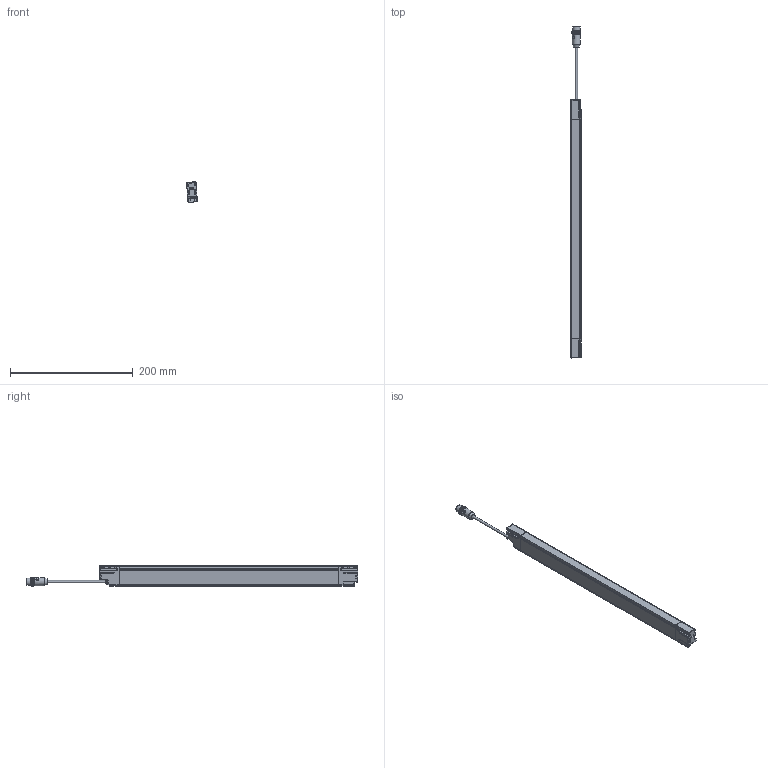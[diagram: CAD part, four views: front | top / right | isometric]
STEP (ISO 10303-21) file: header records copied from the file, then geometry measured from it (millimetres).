
FILE_DESCRIPTION(/* description */ (''),/* implementation_level */ '2;1');
FILE_NAME(/* name */ 'DSD-0629.stp',/* time_stamp */ '2015-02-23T17:07:30+01:00',/* author */ (''),/* organization */ (''),/* preprocessor_version */ 'ST-DEVELOPER v11',/* originating_system */ 'SIEMENS PLM Software NX 7.5',/* authorisation */ '');
FILE_SCHEMA (('AUTOMOTIVE_DESIGN { 1 0 10303 214 1 1 1 1 }'));
Length unit declared in the file: millimetre
Products named in the file (1): AP008105_00
Bounding box: 17.36 x 540.24 x 33.46 mm (x, y, z)
Surface area: 53676.1 mm2 (no closed solid volume)
Topology: 0 solids, 46 shells, 1105 faces, 3657 edges, 2457 vertices
Faces by surface type: cylinder 401, plane 330, bspline 150, torus 117, sphere 67, cone 40
Full cylindrical faces by diameter (mm): 1 x5, 1.2 x2, 2.6 x6, 4 x1, 8.3 x1, 9.4 x1, 10.4 x1, 12 x1, 13 x1, 13.5 x1, 14.5 x2
Entity records: 47149 total; most frequent: CARTESIAN_POINT 16261, DIRECTION 6567, ORIENTED_EDGE 5733, EDGE_CURVE 3531, AXIS2_PLACEMENT_3D 2471, VERTEX_POINT 2422, LINE 1625, VECTOR 1625
